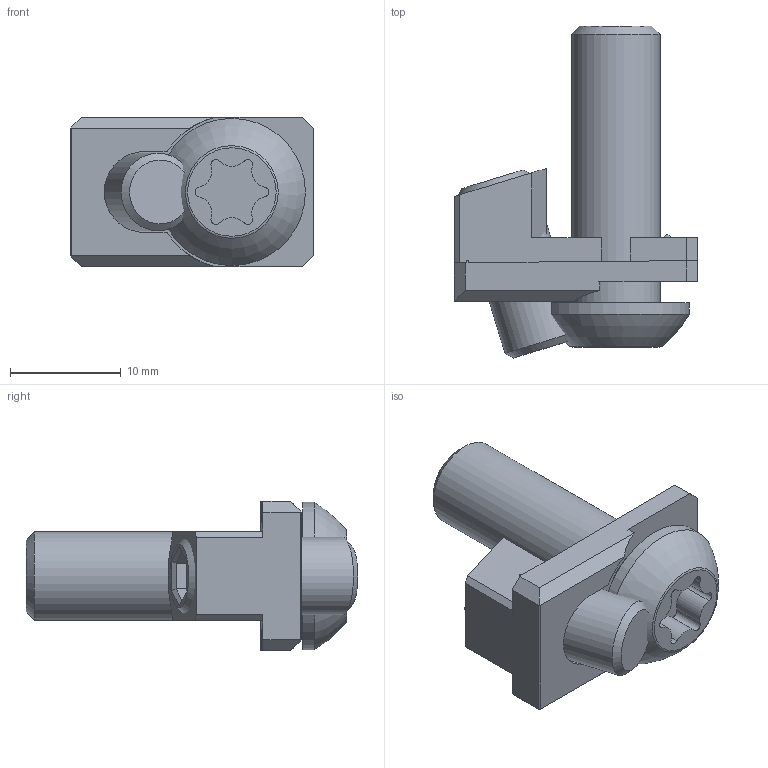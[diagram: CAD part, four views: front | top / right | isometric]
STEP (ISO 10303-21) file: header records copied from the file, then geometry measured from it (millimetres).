
FILE_DESCRIPTION(/* description */ ('STEP AP203'),/* implementation_level */ '2;1');
FILE_NAME(/* name */ '099J08S08S03',/* time_stamp */ '2026-05-11T13:57:18+02:00',/* author */ ('License CC BY-ND 4.0'),/* organization */ ('CADENAS'),/* preprocessor_version */ 'ST-DEVELOPER v20',/* originating_system */ 'PARTsolutions',/* authorisation */ ' ');
FILE_SCHEMA (('CONFIG_CONTROL_DESIGN'));
Length unit declared in the file: millimetre
Products named in the file (4): 099J08S08S03; 099J08S08S03-1; 099J08S08S03-3; 099J08S08S03-2
Assembly tree (3 placements, depth 2):
  099J08S08S03
    099J08S08S03-1
    099J08S08S03-3
    099J08S08S03-2
Bounding box: 22 x 29.99 x 13.5 mm (x, y, z)
Volume: 3081.1 mm3; surface area: 2700 mm2
Topology: 3 solids, 3 shells, 90 faces, 240 edges, 157 vertices
Faces by surface type: plane 56, cylinder 28, cone 4, torus 2
Full cylindrical faces by diameter (mm): 5.917 x1, 7 x1, 8 x1, 8.1 x1, 13.3 x1
Entity records: 2791 total; most frequent: DIRECTION 485, CARTESIAN_POINT 469, ORIENTED_EDGE 446, EDGE_CURVE 223, AXIS2_PLACEMENT_3D 168, VERTEX_POINT 152, LINE 149, VECTOR 149
